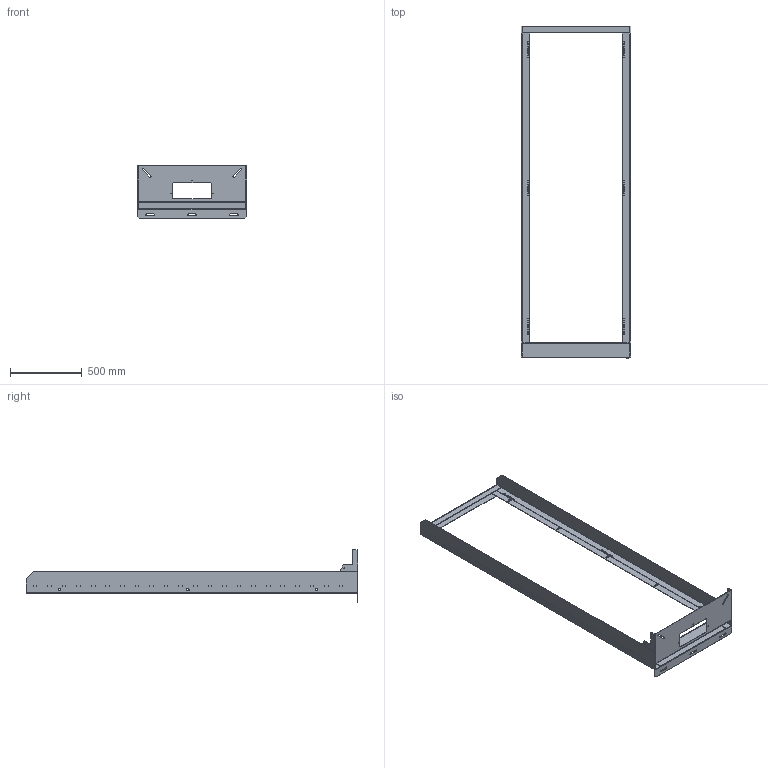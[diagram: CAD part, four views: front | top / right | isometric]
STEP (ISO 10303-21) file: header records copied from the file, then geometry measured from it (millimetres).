
FILE_DESCRIPTION (( 'STEP AP203' ), '1' );
FILE_NAME ('62465.STEP', '2026-01-12T15:04:58', ( '' ), ( '' ), 'SwSTEP 2.0', 'SolidWorks 2024', '' );
FILE_SCHEMA (( 'CONFIG_CONTROL_DESIGN' ));
Length unit declared in the file: inch
Products named in the file (8): 89251052; 89251150; 89251159_WITH HELLCAT; 62465; 89251051; 89251153; 89251053; 89251151
Assembly tree (8 placements, depth 3):
  62465
    89251159_WITH HELLCAT
      89251051
      89251150
      89251153  x2
      89251052
      89251053
      89251151
Bounding box: 759.6 x 2312.67 x 368.3 mm (x, y, z)
Volume: 5685457.7 mm3; surface area: 3595662.6 mm2
Topology: 7 solids, 7 shells, 918 faces, 2350 edges, 1514 vertices
Faces by surface type: plane 692, cylinder 226
Entity records: 25721 total; most frequent: CARTESIAN_POINT 4298, ORIENTED_EDGE 4206, DIRECTION 4163, EDGE_CURVE 2103, VECTOR 1717, LINE 1717, VERTEX_POINT 1358, AXIS2_PLACEMENT_3D 1223
